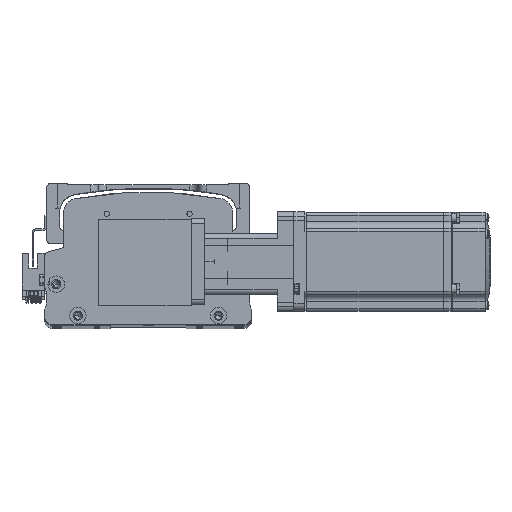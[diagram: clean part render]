
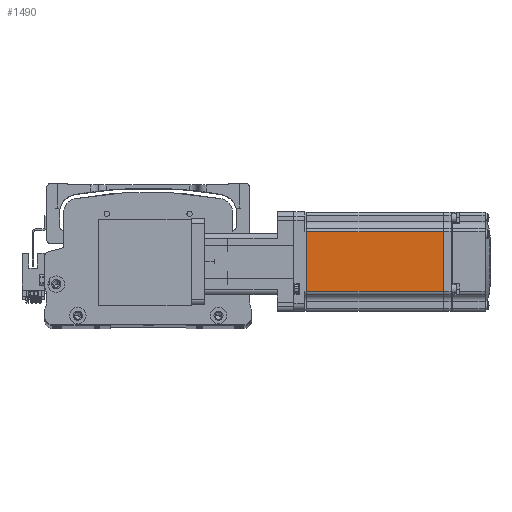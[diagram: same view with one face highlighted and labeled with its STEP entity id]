
A CAD part, top view. The second image highlights one B-rep face of the part: STEP entity #1490.
In plain terms, the highlighted planar face has unit normal (0, 0, 1) as drawn and (0, -1, 0) by its records, which use the part's own axes.
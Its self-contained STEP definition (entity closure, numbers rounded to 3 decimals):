
#349 = CARTESIAN_POINT ( 'NONE',  ( -90.45, -30., 18. ) ) ;
#547 = VECTOR ( 'NONE', #28020, 1000. ) ;
#842 = EDGE_CURVE ( 'NONE', #60082, #29711, #43312, .T. ) ;
#1490 = ADVANCED_FACE ( 'NONE', ( #17016 ), #28790, .T. ) ;
#5853 = CARTESIAN_POINT ( 'NONE',  ( -90.45, -30., 0. ) ) ;
#7786 = EDGE_CURVE ( 'NONE', #29711, #17141, #26251, .T. ) ;
#10015 = CARTESIAN_POINT ( 'NONE',  ( -7.75, -30., -18. ) ) ;
#10675 = DIRECTION ( 'NONE',  ( 0., 0., -1. ) ) ;
#14793 = VERTEX_POINT ( 'NONE', #349 ) ;
#17016 = FACE_OUTER_BOUND ( 'NONE', #62067, .T. ) ;
#17141 = VERTEX_POINT ( 'NONE', #60230 ) ;
#19719 = CARTESIAN_POINT ( 'NONE',  ( -6.5, -30., -25. ) ) ;
#21228 = AXIS2_PLACEMENT_3D ( 'NONE', #19719, #53387, #24563 ) ;
#23173 = CARTESIAN_POINT ( 'NONE',  ( -6.5, -30., -18. ) ) ;
#24563 = DIRECTION ( 'NONE',  ( 0., 0., -1. ) ) ;
#26251 = LINE ( 'NONE', #23173, #547 ) ;
#26738 = VECTOR ( 'NONE', #28479, 1000. ) ;
#27871 = DIRECTION ( 'NONE',  ( 0., 0., -1. ) ) ;
#28020 = DIRECTION ( 'NONE',  ( -1., 0., 0. ) ) ;
#28479 = DIRECTION ( 'NONE',  ( -1., 0., 0. ) ) ;
#28790 = PLANE ( 'NONE',  #21228 ) ;
#28977 = VECTOR ( 'NONE', #27871, 1000. ) ;
#29711 = VERTEX_POINT ( 'NONE', #10015 ) ;
#32288 = ORIENTED_EDGE ( 'NONE', *, *, #7786, .F. ) ;
#34730 = EDGE_CURVE ( 'NONE', #14793, #17141, #53683, .T. ) ;
#37584 = CARTESIAN_POINT ( 'NONE',  ( -7.75, -30., 0. ) ) ;
#38315 = EDGE_CURVE ( 'NONE', #60082, #14793, #52309, .T. ) ;
#40725 = ORIENTED_EDGE ( 'NONE', *, *, #34730, .T. ) ;
#40945 = VECTOR ( 'NONE', #10675, 1000. ) ;
#42043 = CARTESIAN_POINT ( 'NONE',  ( -7.75, -30., 18. ) ) ;
#43312 = LINE ( 'NONE', #37584, #28977 ) ;
#52309 = LINE ( 'NONE', #57270, #26738 ) ;
#53387 = DIRECTION ( 'NONE',  ( 0., -1., 0. ) ) ;
#53683 = LINE ( 'NONE', #5853, #40945 ) ;
#57270 = CARTESIAN_POINT ( 'NONE',  ( -6.5, -30., 18. ) ) ;
#57874 = ORIENTED_EDGE ( 'NONE', *, *, #38315, .T. ) ;
#58632 = ORIENTED_EDGE ( 'NONE', *, *, #842, .F. ) ;
#60082 = VERTEX_POINT ( 'NONE', #42043 ) ;
#60230 = CARTESIAN_POINT ( 'NONE',  ( -90.45, -30., -18. ) ) ;
#62067 = EDGE_LOOP ( 'NONE', ( #58632, #57874, #40725, #32288 ) ) ;
